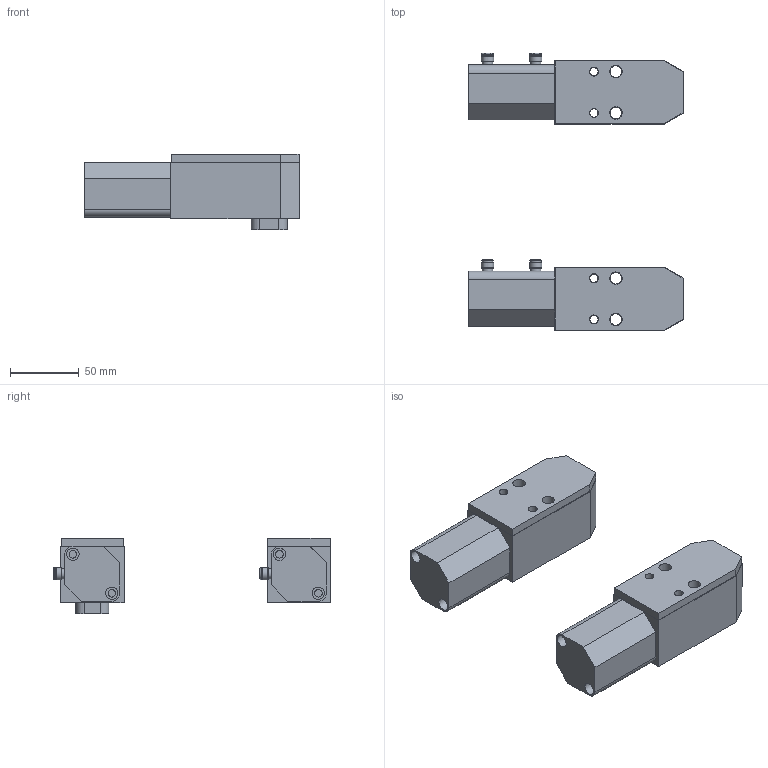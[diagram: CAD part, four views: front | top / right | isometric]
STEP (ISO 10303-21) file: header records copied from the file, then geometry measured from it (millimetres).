
FILE_DESCRIPTION(('STEP AP214'),'1');
FILE_NAME('1003.0010.stp','2020-05-22T14:12:34',(' '),(' '),'Spatial InterOp 3D',' ',' ');
FILE_SCHEMA(('AUTOMOTIVE_DESIGN { 1 0 10303 214 1 1 1 1 }'));
Length unit declared in the file: millimetre
Products named in the file (7): (PMS) 1003.0010; 6; 5; Assemblato; (PMI) 1003.0010; 3; 1
Assembly tree (6 placements, depth 3):
  Assemblato
    (PMS) 1003.0010
      6
      5
    (PMI) 1003.0010
      3
      1
Bounding box: 156 x 201.25 x 55 mm (x, y, z)
Volume: 532435.4 mm3; surface area: 98270.7 mm2
Topology: 4 solids, 4 shells, 784 faces, 2080 edges, 1384 vertices
Faces by surface type: extrusion 400, plane 260, cylinder 106, torus 12, cone 4, sphere 2
Full cylindrical faces by diameter (mm): 5.5 x4, 6 x4, 6.5 x4, 6.8 x4, 7.5 x8, 8.5 x4, 9 x16, 10 x2, 13.9 x4
Entity records: 30836 total; most frequent: CARTESIAN_POINT 6623, ORIENTED_EDGE 3984, DIRECTION 2606, EDGE_CURVE 1992, VERTEX_POINT 1366, VECTOR 1360, B_SPLINE_CURVE_WITH_KNOTS 1202, LINE 960
